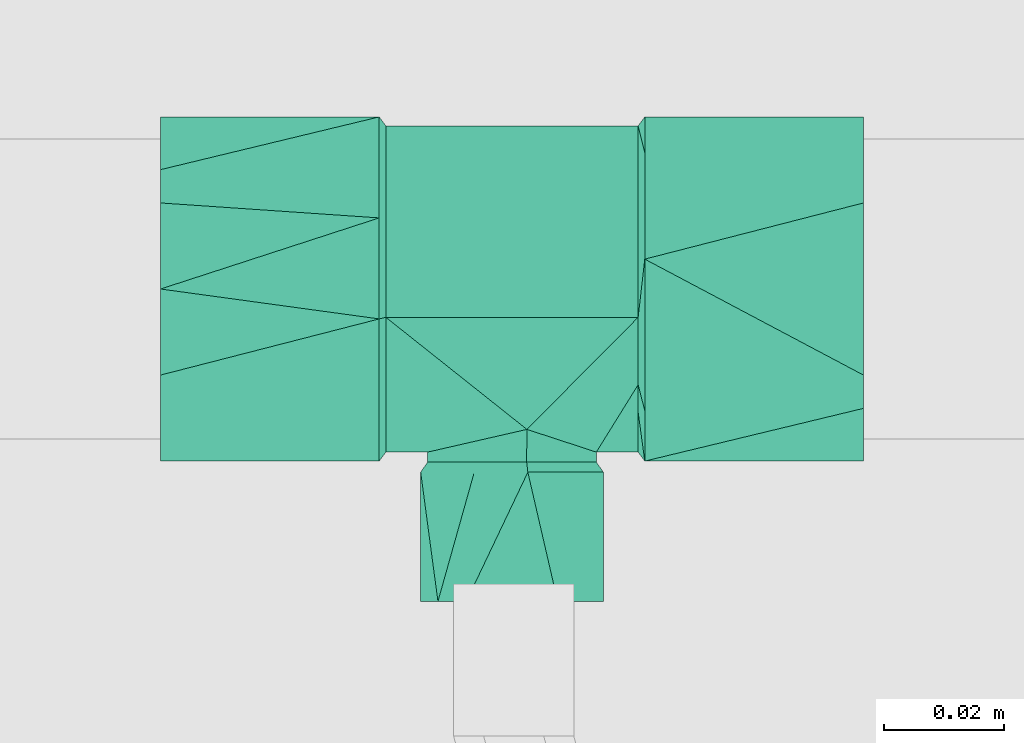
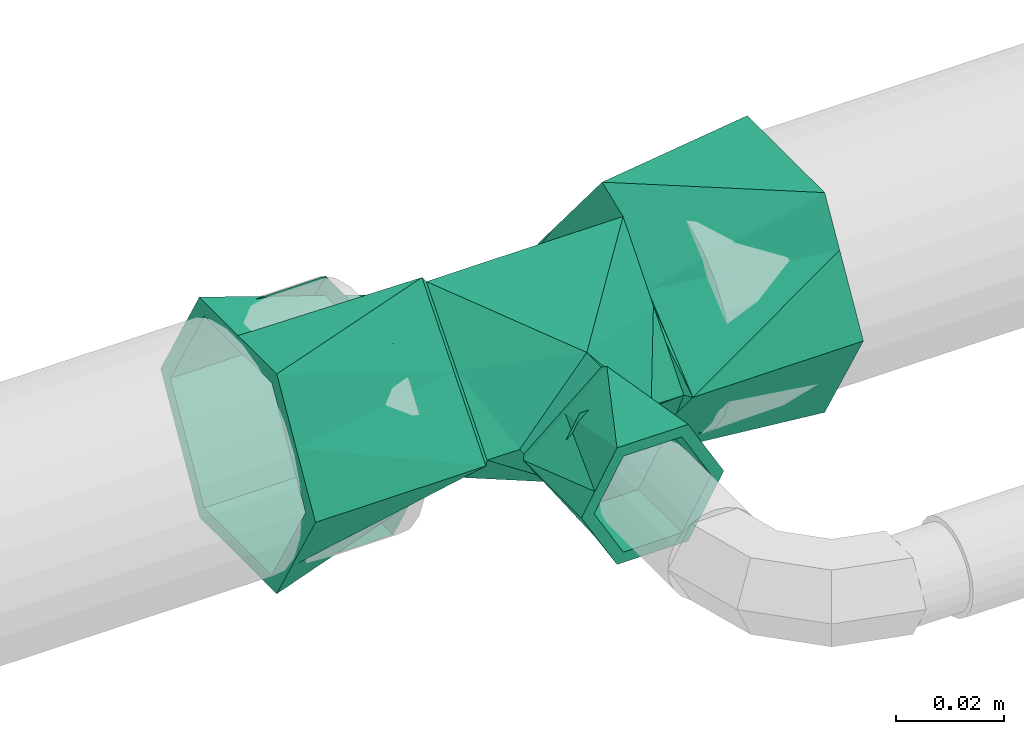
# One storey, part 86 of 166: 1 flow fitting.
"""IFC2X3 building model written with IfcOpenShell, lengths in metres."""

from ifc_helpers import new_model, entity, si_unit, converted_unit, direction, frame, origin, place, context, subcontext, project, spatial, faceted_brep, source, transform, mapped, material, type_object, type_shapes, element, save


model = new_model("IFC2X3")

# Units and contexts
model_context = context("Model", 3, precision=1e-05, world=origin(), true_north=direction((6.123233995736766e-17, 1.0)))
body_context = subcontext(model_context, "Body", "Model", "MODEL_VIEW")
ifc_project = project(units=[si_unit("LENGTHUNIT", "METRE"), converted_unit("PLANEANGLEUNIT", "DEGREE", entity("IfcPlaneAngleMeasure", 0.017453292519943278), si_unit("PLANEANGLEUNIT", "RADIAN"), dimensions=[0, 0, 0, 0, 0, 0, 0]), si_unit("AREAUNIT", "SQUARE_METRE")], contexts=[model_context])

# Site, building, storey
site_placement = place(None, origin())
site = spatial("IfcSite", under=ifc_project, at=site_placement, Name="Default", CompositionType="ELEMENT")
building_placement = place(site_placement, origin())
building = spatial("IfcBuilding", under=site, at=building_placement, Name="CASA DE ACOLHIDA PARA IDOSOS", CompositionType="ELEMENT")
storey_placement = place(building_placement, frame((0.0, 0.0, -1.7499999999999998)))
storey = spatial("IfcBuildingStorey", under=building, at=storey_placement, Name="IMPLANTAÇÃO DRENAGEM", CompositionType="ELEMENT", Elevation=-1.7499999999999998)

# Flow fitting
ifc_material = material(Name="PVC Branco")
pipe_fitting_type = type_object("IfcPipeFittingType", Name="AF_Roscavel_Te_Reducao:Standard", PredefinedType="NOTDEFINED", material=ifc_material)
shared_shape = source(origin(), body_context, "Body", "Brep", [
    faceted_brep([(-0.022099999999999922, 0.022730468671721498, -0.007053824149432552), (-0.022099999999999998, 0.028649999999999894, 0.0), (-0.021, 0.027149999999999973, 0.0), (-0.02099999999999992, 0.019184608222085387, -0.006684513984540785), (-0.020999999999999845, 0.011219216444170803, -0.013369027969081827), (-0.022099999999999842, 0.0168109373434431, -0.014107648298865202), (-0.020999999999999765, 0.0032538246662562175, -0.02005354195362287), (-0.022099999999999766, 0.010891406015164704, -0.02116147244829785), (-0.020999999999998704, -0.015930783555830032, -0.013369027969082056), (-0.022099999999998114, -0.020244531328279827, -0.007053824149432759), (-0.022099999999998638, -0.01183906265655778, -0.01410764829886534), (-0.020999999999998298, -0.02051095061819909, -0.007911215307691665), (-0.02209999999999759, -0.02865000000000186, 0.0), (-0.020999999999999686, -0.004711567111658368, -0.02673805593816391), (-0.02209999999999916, -0.0034335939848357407, -0.021161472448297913), (-0.022099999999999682, 0.004971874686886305, -0.028215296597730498), (-0.020999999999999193, -0.010321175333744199, -0.02005354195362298), (-0.02099999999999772, -0.027150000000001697, 0.0), (-0.02210000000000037, -0.022732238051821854, 0.007053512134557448), (-0.021000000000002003, -0.019182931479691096, 0.006684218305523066), (-0.021000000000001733, -0.011215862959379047, 0.013368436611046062), (-0.022100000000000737, -0.0168144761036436, 0.014107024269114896), (-0.021000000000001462, -0.0032487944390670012, 0.020052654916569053), (-0.022100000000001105, -0.010896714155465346, 0.021160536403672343), (-0.022100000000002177, 0.020242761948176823, 0.007053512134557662), (-0.02100000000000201, 0.021542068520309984, 0.006684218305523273), (-0.022100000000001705, 0.0034282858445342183, 0.021160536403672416), (-0.021000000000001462, 0.010326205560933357, 0.020052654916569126), (-0.022100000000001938, 0.01183552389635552, 0.014107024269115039), (-0.021000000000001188, 0.004718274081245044, 0.02673687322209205), (-0.022100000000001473, -0.004978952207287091, 0.028214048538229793), (-0.021000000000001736, 0.01593413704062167, 0.013368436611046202), (-0.02099999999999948, 0.018449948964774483, 0.010369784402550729), (0.021, 0.027149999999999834, 0.0), (0.021000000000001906, 0.004718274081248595, 0.026736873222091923), (0.021000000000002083, 0.010326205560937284, 0.02005265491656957), (0.021000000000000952, 0.015934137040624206, 0.013368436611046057), (0.021000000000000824, 0.020511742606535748, 0.007912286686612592), (0.021, -0.027150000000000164, 0.0), (0.0024774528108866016, -0.023369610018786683, 0.013819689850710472), (0.008258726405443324, -0.025259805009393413, 0.006909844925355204), (0.014040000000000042, -0.027150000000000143, 0.0), (-0.014039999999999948, -0.02715000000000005, 0.0), (-0.008913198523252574, -0.02597661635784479, 0.004289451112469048), (-0.0057812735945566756, -0.02525980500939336, 0.0069098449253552), (0.021000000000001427, -0.01918293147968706, 0.006684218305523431), (0.021000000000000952, -0.011215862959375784, 0.013368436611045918), (0.02100000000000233, -0.00324879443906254, 0.020052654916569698), (0.02099999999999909, 0.019607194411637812, -0.006329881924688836), (0.020999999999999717, 0.011219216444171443, -0.013369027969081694), (0.02099999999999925, 0.003253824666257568, -0.02005354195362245), (0.020999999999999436, -0.004711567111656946, -0.02673805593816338), (-0.0024814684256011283, -0.023370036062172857, -0.013818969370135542), (0.020999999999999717, -0.015930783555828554, -0.013369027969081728), (0.008912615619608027, -0.025976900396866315, -0.004288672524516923), (0.005779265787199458, -0.025260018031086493, -0.006909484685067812), (-0.00826073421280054, -0.025260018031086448, -0.006909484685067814), (0.020999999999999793, -0.020510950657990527, -0.007911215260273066), (0.020999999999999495, -0.010321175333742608, -0.020053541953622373), (0.02210000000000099, 0.01681093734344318, 0.014107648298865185), (0.022100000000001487, 0.01089140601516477, 0.021161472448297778), (0.022100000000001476, -0.012730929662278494, 0.013359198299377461), (0.022100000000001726, -0.003879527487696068, 0.020787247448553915), (0.022100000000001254, -0.020690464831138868, 0.006679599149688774), (0.022100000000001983, 0.004971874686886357, 0.02821529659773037), (0.0221, 0.028650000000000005, 0.0), (0.022100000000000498, 0.022730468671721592, 0.007053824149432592), (0.022100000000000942, -0.011839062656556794, 0.014107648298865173), (0.022100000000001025, -0.02864999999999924, 0.0), (0.022099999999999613, -0.009809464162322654, -0.022456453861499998), (0.022099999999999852, -0.021644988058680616, -0.008349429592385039), (0.02209999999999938, 0.0034282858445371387, -0.02116053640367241), (0.022099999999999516, -0.004978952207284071, -0.028214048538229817), (0.02209999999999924, 0.011835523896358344, -0.014107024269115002), (0.0220999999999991, 0.02024276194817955, -0.0070535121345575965), (0.02209999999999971, -0.014639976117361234, -0.01669885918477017), (0.022100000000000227, -0.016814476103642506, -0.014107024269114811), (-0.058500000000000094, -0.014325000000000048, -0.024811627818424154), (-0.058500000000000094, -0.025, 0.0), (-0.058500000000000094, -0.01997114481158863, -0.00871023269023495), (-0.0585000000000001, -0.019870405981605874, -0.015206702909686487), (-0.058500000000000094, -0.012500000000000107, -0.021650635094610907), (-0.058500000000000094, 0.0, -0.02165063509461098), (-0.058500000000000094, 0.012499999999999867, -0.021650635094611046), (-0.0585000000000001, 0.0, -0.024811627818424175), (-0.058500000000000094, -0.028650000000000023, 0.0), (-0.0585000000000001, -0.018750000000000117, 0.01082531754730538), (-0.058500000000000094, -0.012500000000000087, 0.021650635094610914), (-0.0585000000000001, -0.021487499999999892, 0.012405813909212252), (-0.058500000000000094, -0.014324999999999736, 0.02481162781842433), (-0.058500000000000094, 0.0, 0.021650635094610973), (-0.058500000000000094, 0.012499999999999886, 0.021650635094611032), (-0.0585000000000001, 0.0, 0.02481162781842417), (-0.058500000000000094, 0.014325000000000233, 0.024811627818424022), (-0.0585000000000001, 0.019870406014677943, 0.015206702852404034), (-0.058500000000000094, 0.02864999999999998, 0.0), (-0.058500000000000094, 0.019971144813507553, 0.00871023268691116), (-0.058500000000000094, 0.025, 0.0), (-0.0585000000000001, 0.021487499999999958, -0.012405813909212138), (-0.058500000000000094, 0.014324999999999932, -0.0248116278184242), (-0.058500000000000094, 0.018749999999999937, -0.010825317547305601), (0.0585000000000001, 0.021487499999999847, 0.012405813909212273), (0.058500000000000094, 0.028650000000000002, 0.0), (0.058500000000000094, -0.028650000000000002, 0.0), (0.0585000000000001, -0.01987040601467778, 0.015206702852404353), (0.0585000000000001, -0.021487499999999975, -0.012405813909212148), (0.0585000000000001, 0.019870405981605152, -0.015206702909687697), (0.058500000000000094, 0.014325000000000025, -0.024811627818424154), (0.058500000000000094, 0.024999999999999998, 0.0), (0.058500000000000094, 0.019971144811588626, -0.00871023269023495), (0.058500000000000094, 0.012500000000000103, -0.021650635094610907), (0.058500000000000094, 0.0, -0.02165063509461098), (0.058500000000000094, -0.012499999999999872, -0.021650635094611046), (0.0585000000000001, 0.0, -0.024811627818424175), (0.0585000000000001, 0.01875000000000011, 0.01082531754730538), (0.058500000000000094, 0.012500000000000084, 0.021650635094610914), (0.058500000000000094, 0.014324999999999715, 0.02481162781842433), (0.058500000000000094, 0.0, 0.021650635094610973), (0.058500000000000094, -0.012499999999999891, 0.021650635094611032), (0.0585000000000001, 0.0, 0.02481162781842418), (0.058500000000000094, -0.014325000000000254, 0.024811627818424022), (0.058500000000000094, -0.019971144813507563, 0.00871023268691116), (0.058500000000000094, -0.025000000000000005, 0.0), (0.058500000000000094, -0.014324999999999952, -0.0248116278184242), (0.058500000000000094, -0.018749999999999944, -0.010825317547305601), (-0.032600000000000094, -0.025, 0.0), (-0.032600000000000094, -0.019971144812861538, 0.00871023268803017), (-0.032600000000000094, -0.012500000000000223, 0.021650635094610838), (-0.032600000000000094, 0.0, 0.021650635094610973), (-0.032600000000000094, 0.012499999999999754, 0.02165063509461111), (-0.032600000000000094, 0.018749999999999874, 0.010825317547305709), (-0.032600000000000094, 0.025, 0.0), (-0.032600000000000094, 0.019971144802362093, -0.008710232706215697), (-0.032600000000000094, 0.012500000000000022, -0.021650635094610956), (-0.032600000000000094, 0.0, -0.02165063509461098), (-0.032600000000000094, -0.012499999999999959, -0.021650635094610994), (-0.032600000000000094, -0.018749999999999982, -0.010825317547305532), (0.03260000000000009, -0.025, 0.0), (0.032600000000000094, -0.018749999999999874, 0.010825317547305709), (0.032600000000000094, -0.012499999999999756, 0.02165063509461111), (0.032600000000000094, 0.0, 0.021650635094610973), (0.032600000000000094, 0.012500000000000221, 0.021650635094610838), (0.032600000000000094, 0.019971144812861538, 0.00871023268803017), (0.032600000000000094, 0.025, 0.0), (0.032600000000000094, 0.018749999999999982, -0.010825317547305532), (0.032600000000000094, 0.012499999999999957, -0.021650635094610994), (0.032600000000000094, 0.0, -0.02165063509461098), (0.032600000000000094, -0.012500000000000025, -0.021650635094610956), (0.032600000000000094, -0.019971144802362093, -0.008710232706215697), (0.012500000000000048, -0.03589999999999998, 0.0), (0.006250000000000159, -0.035899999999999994, 0.010825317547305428), (-0.0062499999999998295, -0.03590000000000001, 0.010825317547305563), (-0.012499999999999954, -0.03590000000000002, 0.0), (-0.006249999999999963, -0.03590000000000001, -0.010825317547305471), (0.006250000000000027, -0.035899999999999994, -0.01082531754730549), (0.012500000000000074, -0.05199999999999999, 0.0), (0.006250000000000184, -0.052, 0.010825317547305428), (-0.006249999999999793, -0.05200000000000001, 0.01082531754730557), (-0.01249999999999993, -0.052000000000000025, 0.0), (-0.006249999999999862, -0.05200000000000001, -0.010825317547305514), (0.006250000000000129, -0.052, -0.010825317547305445), (-0.011620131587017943, -0.028800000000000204, -0.0028835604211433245), (-0.01403999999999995, -0.02880000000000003, 0.0), (-0.002436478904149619, -0.028800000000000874, -0.013826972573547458), (-0.008238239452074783, -0.02880000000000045, -0.006913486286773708), (0.0030428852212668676, -0.028800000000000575, -0.009228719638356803), (0.014040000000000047, -0.02879999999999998, 0.0), (0.008541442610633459, -0.02880000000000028, -0.004614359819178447), (0.005801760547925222, -0.02880000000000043, -0.006913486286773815), (0.011620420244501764, -0.028799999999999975, 0.002883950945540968), (0.002439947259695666, -0.028799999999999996, 0.01382636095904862), (0.008239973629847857, -0.028799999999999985, 0.00691318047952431), (-0.0030421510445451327, -0.028800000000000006, 0.00922698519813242), (-0.008541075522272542, -0.028800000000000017, 0.004613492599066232), (-0.005800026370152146, -0.028800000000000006, 0.006913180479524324), (0.0026415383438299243, -0.030500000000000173, 0.01496870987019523), (0.008920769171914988, -0.03050000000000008, 0.007484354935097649), (0.010065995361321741, -0.030500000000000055, 0.006119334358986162), (0.015200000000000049, -0.03049999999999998, 0.0), (-0.015199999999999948, -0.03050000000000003, 0.0), (-0.006279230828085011, -0.0305000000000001, 0.007484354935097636), (-0.0026377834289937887, -0.030500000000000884, -0.01496937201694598), (-0.008918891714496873, -0.03050000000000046, -0.007484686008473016), (-0.010065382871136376, -0.030500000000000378, -0.006118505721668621), (0.006281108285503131, -0.03050000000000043, -0.007484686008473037), (0.007600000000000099, -0.052, -0.01316358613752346), (0.012327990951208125, -0.05199999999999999, -0.004974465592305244), (0.0, -0.052000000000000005, -0.01316358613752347), (0.015200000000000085, -0.051999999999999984, 0.0), (0.011400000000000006, -0.05199999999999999, 0.00658179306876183), (0.007599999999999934, -0.052, 0.013163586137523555), (0.0, -0.052000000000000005, 0.013163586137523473), (-0.007600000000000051, -0.05200000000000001, 0.01316358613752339), (-0.012327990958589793, -0.052000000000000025, 0.00497446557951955), (-0.015199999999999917, -0.05200000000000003, 0.0), (-0.011399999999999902, -0.052000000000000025, -0.006581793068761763), (-0.007599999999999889, -0.05200000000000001, -0.013163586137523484)], [[[0, 1, 2]], [[3, 4, 5]], [[6, 7, 4]], [[8, 9, 10]], [[11, 12, 9]], [[13, 14, 15]], [[14, 16, 10]], [[16, 14, 13]], [[2, 3, 0]], [[9, 8, 11]], [[11, 17, 12]], [[7, 6, 15]], [[6, 13, 15]], [[5, 4, 7]], [[16, 8, 10]], [[3, 5, 0]], [[18, 12, 17]], [[19, 20, 21]], [[22, 23, 20]], [[1, 24, 25]], [[25, 2, 1]], [[26, 27, 28]], [[29, 26, 30]], [[27, 26, 29]], [[17, 19, 18]], [[23, 22, 30]], [[24, 28, 31]], [[22, 29, 30]], [[21, 20, 23]], [[27, 31, 28]], [[19, 21, 18]], [[24, 31, 32, 25]], [[33, 2, 25, 32, 31, 27, 29, 34, 35, 36, 37]], [[38, 39, 40, 41]], [[20, 42, 43, 44, 39]], [[39, 38, 45, 46]], [[20, 39, 46]], [[34, 29, 22, 20, 46, 47]], [[42, 20, 19, 17]], [[4, 3, 2, 33, 48, 49, 50, 51, 13, 6]], [[51, 52, 13]], [[53, 41, 54, 55, 52]], [[8, 52, 56, 42]], [[42, 17, 11, 8]], [[41, 53, 57, 38]], [[52, 51, 58, 53]], [[52, 8, 16, 13]], [[36, 35, 59, 37]], [[34, 60, 35]], [[46, 45, 61]], [[47, 46, 62]], [[38, 63, 45]], [[64, 34, 47]], [[65, 33, 66]], [[60, 34, 64]], [[46, 61, 67, 62]], [[64, 47, 62]], [[33, 37, 66]], [[37, 59, 66]], [[63, 38, 68]], [[63, 61, 45]], [[60, 59, 35]], [[51, 69, 58]], [[68, 38, 70]], [[51, 71, 72]], [[73, 49, 74]], [[75, 53, 58]], [[33, 65, 48]], [[50, 73, 71]], [[53, 75, 76, 70]], [[48, 74, 49]], [[73, 50, 49]], [[51, 50, 71]], [[38, 57, 53, 70]], [[48, 65, 74]], [[69, 51, 72]], [[69, 75, 58]], [[77, 78, 79]], [[78, 77, 80]], [[77, 79, 81]], [[77, 81, 82]], [[77, 82, 83]], [[83, 84, 77]], [[78, 80, 85]], [[85, 86, 78]], [[85, 87, 86]], [[87, 85, 88]], [[87, 88, 89]], [[89, 90, 87]], [[89, 91, 90]], [[91, 89, 92]], [[91, 92, 93]], [[91, 93, 94]], [[91, 94, 95]], [[95, 96, 91]], [[95, 97, 96]], [[97, 95, 98]], [[97, 98, 99]], [[99, 83, 100]], [[83, 99, 84]], [[99, 100, 97]], [[28, 94, 93]], [[94, 28, 24, 1]], [[1, 95, 94]], [[65, 101, 102]], [[12, 88, 85]], [[68, 103, 104]], [[89, 21, 23, 30]], [[21, 89, 88]], [[88, 12, 18, 21]], [[92, 30, 26, 28]], [[30, 92, 89]], [[28, 93, 92]], [[10, 80, 77]], [[80, 10, 9, 12]], [[12, 85, 80]], [[68, 105, 103]], [[1, 98, 95]], [[65, 102, 106]], [[99, 5, 7, 15]], [[5, 99, 98]], [[98, 1, 0, 5]], [[15, 77, 84, 99]], [[77, 15, 14, 10]], [[107, 108, 109]], [[108, 107, 106]], [[107, 109, 110]], [[107, 110, 111]], [[107, 111, 112]], [[112, 113, 107]], [[108, 106, 102]], [[102, 114, 108]], [[102, 115, 114]], [[115, 102, 101]], [[115, 101, 116]], [[116, 117, 115]], [[116, 118, 117]], [[118, 116, 119]], [[118, 119, 120]], [[118, 120, 104]], [[118, 104, 103]], [[103, 121, 118]], [[103, 122, 121]], [[122, 103, 105]], [[122, 105, 123]], [[123, 112, 124]], [[112, 123, 113]], [[123, 124, 122]], [[67, 104, 120]], [[104, 67, 61, 63, 68]], [[116, 59, 60, 64]], [[59, 116, 101]], [[101, 65, 66, 59]], [[64, 120, 119, 116]], [[120, 64, 62, 67]], [[73, 106, 107]], [[106, 73, 74, 65]], [[123, 76, 75, 69, 72]], [[76, 123, 105]], [[105, 68, 70, 76]], [[113, 72, 71, 73]], [[72, 113, 123]], [[73, 107, 113]], [[125, 126, 127, 128, 129, 130, 131, 132, 133, 134, 135, 136]], [[87, 127, 126, 125, 78, 86]], [[137, 138, 139, 118, 121, 122]], [[129, 128, 127, 87, 90, 91]], [[139, 140, 141, 115, 117, 118]], [[131, 130, 129, 91, 96, 97]], [[115, 141, 142, 143, 108, 114]], [[83, 133, 132, 131, 97, 100]], [[143, 144, 145, 110, 109, 108]], [[135, 134, 133, 83, 82, 81]], [[145, 146, 147, 112, 111, 110]], [[125, 136, 135, 81, 79, 78]], [[112, 147, 148, 137, 122, 124]], [[143, 142, 141, 140, 139, 138, 137, 148, 147, 146, 145, 144]], [[149, 150, 151, 152, 153, 154]], [[155, 156, 150, 149]], [[156, 157, 151, 150]], [[157, 158, 152, 151]], [[158, 159, 153, 152]], [[159, 160, 154, 153]], [[160, 155, 149, 154]], [[42, 161, 162]], [[56, 163, 164, 161]], [[163, 56, 52]], [[165, 163, 52]], [[166, 167, 41]], [[55, 167, 168, 165]], [[55, 54, 41, 167]], [[165, 52, 55]], [[56, 161, 42]], [[41, 169, 166]], [[40, 170, 171, 169]], [[170, 40, 39]], [[172, 170, 39]], [[162, 173, 42]], [[44, 173, 174, 172]], [[44, 43, 42, 173]], [[172, 39, 44]], [[40, 169, 41]], [[175, 176, 177, 178, 166, 169, 171, 170]], [[170, 172, 174, 173, 162, 179, 180, 175]], [[181, 182, 183, 179, 162, 161, 164, 163]], [[163, 165, 168, 167, 166, 178, 184, 181]], [[185, 155, 160]], [[155, 185, 186]], [[185, 160, 159]], [[159, 187, 185]], [[155, 186, 188]], [[156, 155, 188]], [[156, 188, 189]], [[156, 189, 190]], [[156, 190, 157]], [[157, 190, 191]], [[157, 191, 192]], [[157, 192, 193]], [[157, 193, 194]], [[194, 158, 157]], [[158, 194, 195]], [[158, 195, 196]], [[196, 159, 158]], [[159, 196, 187]], [[180, 193, 192]], [[180, 179, 193]], [[179, 194, 193]], [[178, 189, 188]], [[175, 190, 176]], [[176, 190, 189]], [[189, 178, 177, 176]], [[180, 191, 175]], [[175, 191, 190]], [[180, 192, 191]], [[184, 186, 185]], [[184, 178, 186]], [[178, 188, 186]], [[179, 195, 194]], [[181, 196, 182]], [[182, 196, 195]], [[195, 179, 183, 182]], [[181, 185, 187, 196]], [[181, 184, 185]]]),
])
type_shapes(pipe_fitting_type, [shared_shape])
flow_fitting_placement = place(storey_placement, frame((-18.990948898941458, 9.654942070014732, -0.19999999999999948), z_axis=(0.0, 0.0, -1.0), x_axis=(-1.0, 0.0, 0.0)))
element("IfcFlowFitting", 1, at=flow_fitting_placement, inside=storey, type_object=pipe_fitting_type, material=ifc_material, Name="AF_Roscavel_Te_Reducao:Standard", ObjectType="AF_Roscavel_Te_Reducao:Standard", context=body_context, shape_type="MappedRepresentation", body=[
    mapped(shared_shape, transform((0.0, 0.0, 0.0), scale=1.0)),
])

save(model, "model.ifc")
